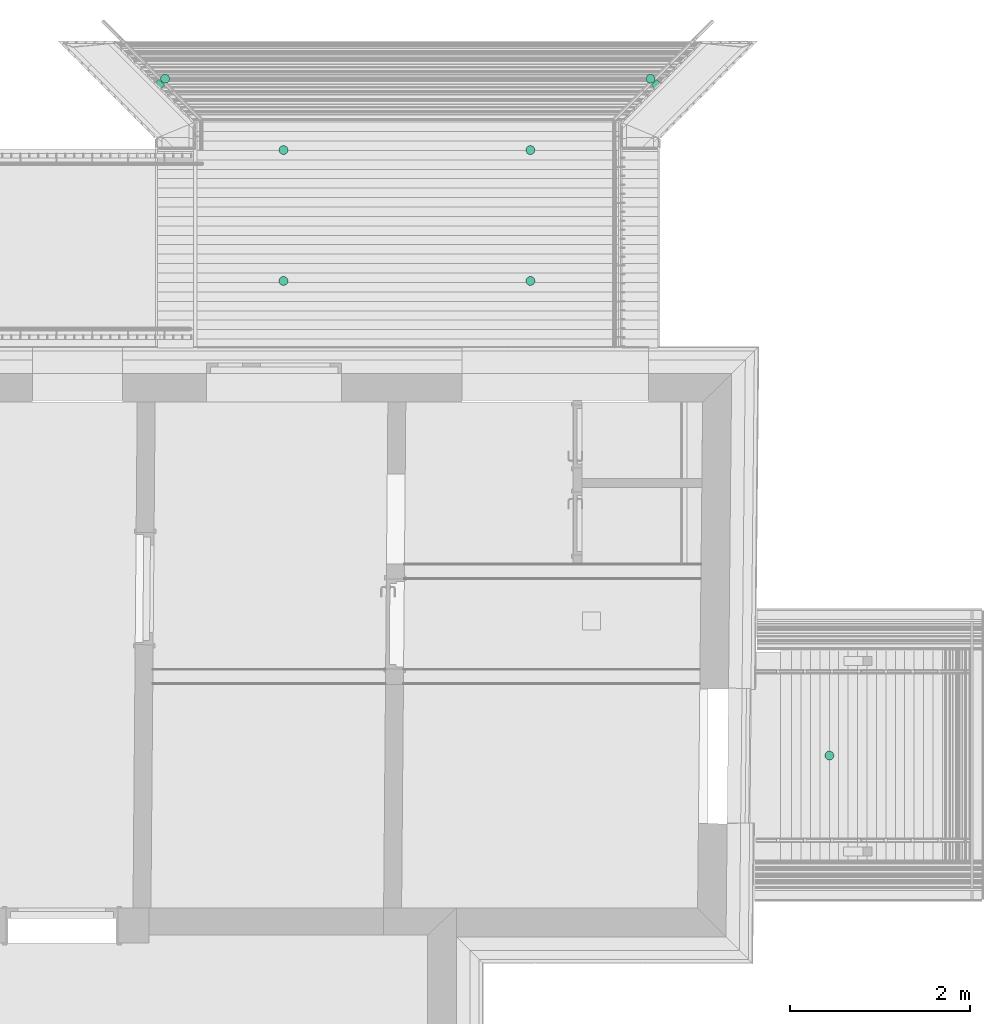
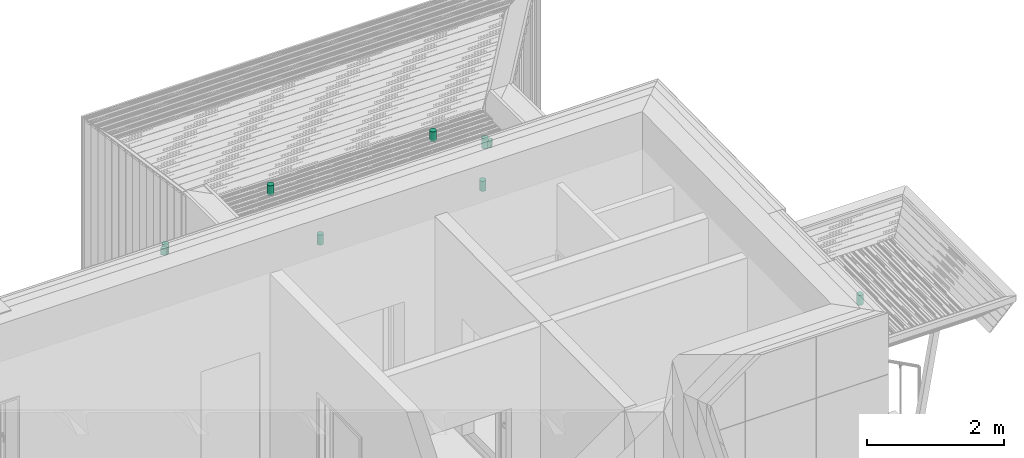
# One storey, part 184 of 418: 9 flow terminals.
"""IFC2X3 building model written with IfcOpenShell, lengths in millimetres."""

from ifc_helpers import new_model, entity, si_unit, converted_unit, derived_unit, money_unit, point, direction, frame, frame_2d, origin_with_axes, place, context, subcontext, project, spatial, polyline, circle_curve, parameter, trimmed, segment, composite_curve, outline, extrude, material, type_object, element, save


model = new_model("IFC2X3")

# Units and contexts
model_context = context("Model", 3, precision=0.01, world=origin_with_axes(), true_north=direction((0.0, 1.0)))
body_context = subcontext(model_context, "Body", "Model", "MODEL_VIEW")
ifc_project = project(units=[si_unit("LENGTHUNIT", "METRE", prefix="MILLI"), si_unit("AREAUNIT", "SQUARE_METRE"), si_unit("VOLUMEUNIT", "CUBIC_METRE"), converted_unit("PLANEANGLEUNIT", "DEGREE", entity("IfcPlaneAngleMeasure", 0.0174532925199), si_unit("PLANEANGLEUNIT", "RADIAN"), dimensions=[0, 0, 0, 0, 0, 0, 0]), si_unit("SOLIDANGLEUNIT", "STERADIAN"), money_unit("EUR"), converted_unit("TIMEUNIT", "Year", entity("IfcTimeMeasure", 31556926.0), si_unit("TIMEUNIT", "SECOND"), dimensions=[0, 0, 1, 0, 0, 0, 0]), si_unit("MASSUNIT", "GRAM", prefix="KILO"), si_unit("THERMODYNAMICTEMPERATUREUNIT", "DEGREE_CELSIUS"), si_unit("LUMINOUSINTENSITYUNIT", "LUMEN"), si_unit("ENERGYUNIT", "JOULE", prefix="MEGA"), derived_unit("THERMALCONDUCTANCEUNIT", [(si_unit("POWERUNIT", "WATT"), 1), (si_unit("LENGTHUNIT", "METRE"), -1), (si_unit("THERMODYNAMICTEMPERATUREUNIT", "KELVIN"), -1)]), derived_unit("SPECIFICHEATCAPACITYUNIT", [(si_unit("ENERGYUNIT", "JOULE"), 1), (si_unit("MASSUNIT", "GRAM", prefix="KILO"), -1), (si_unit("THERMODYNAMICTEMPERATUREUNIT", "KELVIN"), -1)]), derived_unit("MASSDENSITYUNIT", [(si_unit("MASSUNIT", "GRAM", prefix="KILO"), 1), (si_unit("VOLUMEUNIT", "CUBIC_METRE"), -1)])], contexts=[model_context])

# Site, building, storey
site_placement = place(None, origin_with_axes())
site = spatial("IfcSite", under=ifc_project, at=site_placement, Name="Paldiski mnt 245/1, Tallinn, Harjumaa", CompositionType="COMPLEX")
building_placement = place(site_placement, origin_with_axes())
building = spatial("IfcBuilding", under=site, at=building_placement, Name="RKAS Hoone üldnimetus (kasutust iseloomustav) -> IFC Project Manager -> SOLIBRI", CompositionType="ELEMENT")
storey_placement = place(building_placement, origin_with_axes())
storey = spatial("IfcBuildingStorey", under=building, at=storey_placement, Name="Esimene korrus", CompositionType="ELEMENT", Elevation=0.0)

# Flow terminals
ifc_material = material(Name="RAL7016")
light_fixture_type_1 = type_object("IfcLightFixtureType", Name="RAL7016 180", PredefinedType="NOTDEFINED")
for number, where, z_axis, x_axis in (
    (1, (-51944.1209096, 37119.8287546, 2730.72852546), (0.0, 0.0, 1.0), (1.0, 0.0, 0.0)),
    (2, (-49196.4994812, 37119.8287546, 2730.72852546), (0.0, 0.0, 1.0), (1.0, 0.0, 0.0)),
    (3, (-51944.1209096, 38576.3006419, 2730.72852546), (0.0, 0.0, 1.0), (1.0, 0.0, 0.0)),
    (4, (-49196.4994812, 38576.3006419, 2730.72852546), (0.0, 0.0, 1.0), (1.0, 0.0, 0.0)),
    (5, (-45868.4064551, 31837.2365601, 2730.72852546), (0.0, 0.0, 1.0), (1.0, 0.0, 0.0)),
):
    element("IfcFlowTerminal", number, at=place(storey_placement, frame(where, z_axis=z_axis, x_axis=x_axis)), inside=storey, type_object=light_fixture_type_1, material=ifc_material, Name="Välisvalgusti", ObjectType="Light Fixture", context=body_context, shape_type="SweptSolid", body=[
        extrude(outline(composite_curve([segment(trimmed(circle_curve(frame_2d((-50.0, 0.0), x_axis=(1.0, 0.0)), 50.0), [point((0.0, 0.0)), parameter(0.0)], [point((-100.0, 0.0)), parameter(180.0)], True, "CARTESIAN"), True, "CONTINUOUS"), segment(trimmed(circle_curve(frame_2d((-50.0, 0.0), x_axis=(-1.0, 0.0)), 50.0), [point((-100.0, 0.0)), parameter(0.0)], [point((0.0, 0.0)), parameter(180.0)], True, "CARTESIAN"), True, "CONTINUOUS")], self_intersect=False)), frame((0.0, 0.0, -180.0), z_axis=(0.0, 0.0, 1.0), x_axis=(1.0, 0.0, 0.0)), (0.0, 0.0, 1.0), 180.0),
    ])
flow_terminal_1_placement = place(storey_placement, frame((-53348.1977993, 39334.9129869, 1654.07003326), z_axis=(0.0, 0.0, 1.0), x_axis=(1.0, 0.0, 0.0)))
element("IfcFlowTerminal", 6, at=flow_terminal_1_placement, inside=storey, type_object=light_fixture_type_1, material=ifc_material, Name="Välisvalgusti", ObjectType="Light Fixture", context=body_context, shape_type="SweptSolid", body=[
    extrude(outline(composite_curve([segment(trimmed(circle_curve(frame_2d((35.401037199, 35.3095817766), x_axis=(-0.708020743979, -0.706191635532)), 50.0), [point((0.0, 0.0)), parameter(0.0)], [point((70.8020743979, 70.6191635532)), parameter(180.0)], True, "CARTESIAN"), True, "CONTINUOUS"), segment(trimmed(circle_curve(frame_2d((35.401037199, 35.3095817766), x_axis=(0.708020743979, 0.706191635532)), 50.0), [point((70.8020743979, 70.6191635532)), parameter(0.0)], [point((0.0, 0.0)), parameter(180.0)], True, "CARTESIAN"), True, "CONTINUOUS")], self_intersect=False)), frame((0.0, 0.0, -180.0), z_axis=(0.0, 0.0, 1.0), x_axis=(1.0, 0.0, 0.0)), (0.0, 0.0, 1.0), 180.0),
])
flow_terminal_2_placement = place(storey_placement, frame((-47873.6793306, 39334.9129946, 1654.07003326), z_axis=(0.0, 0.0, 1.0), x_axis=(1.0, 0.0, 0.0)))
element("IfcFlowTerminal", 7, at=flow_terminal_2_placement, inside=storey, type_object=light_fixture_type_1, material=ifc_material, Name="Välisvalgusti", ObjectType="Light Fixture", context=body_context, shape_type="SweptSolid", body=[
    extrude(outline(composite_curve([segment(trimmed(circle_curve(frame_2d((-35.4010410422, 35.3095779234), x_axis=(0.708020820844, -0.706191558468)), 50.0), [point((0.0, 0.0)), parameter(0.0)], [point((-70.8020820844, 70.6191558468)), parameter(180.0)], True, "CARTESIAN"), True, "CONTINUOUS"), segment(trimmed(circle_curve(frame_2d((-35.4010410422, 35.3095779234), x_axis=(-0.708020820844, 0.706191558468)), 50.0), [point((-70.8020820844, 70.6191558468)), parameter(0.0)], [point((0.0, 0.0)), parameter(180.0)], True, "CARTESIAN"), True, "CONTINUOUS")], self_intersect=False)), frame((0.0, 0.0, -180.0), z_axis=(0.0, 0.0, 1.0), x_axis=(1.0, 0.0, 0.0)), (0.0, 0.0, 1.0), 180.0),
])
light_fixture_type_2 = type_object("IfcLightFixtureType", Name="RAL7016 120", PredefinedType="NOTDEFINED")
flow_terminal_3_placement = place(storey_placement, frame((-53318.543238, 39300.9334785, 1624.07003326), z_axis=(0.0, 0.0, 1.0), x_axis=(1.0, 0.0, 0.0)))
element("IfcFlowTerminal", 8, at=flow_terminal_3_placement, inside=storey, type_object=light_fixture_type_2, material=ifc_material, Name="Välisvalgusti", ObjectType="Light Fixture", context=body_context, shape_type="SweptSolid", body=[
    extrude(outline(polyline([(0.0, 0.0), (-63.5572471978, 63.7218669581), (-98.9582843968, 28.4122851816), (-35.401037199, -35.3095817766), (0.0, 0.0)])), frame((0.0, 0.0, -120.0), z_axis=(0.0, 0.0, 1.0), x_axis=(1.0, 0.0, 0.0)), (0.0, 0.0, 1.0), 120.0),
])
flow_terminal_4_placement = place(storey_placement, frame((-47839.776648, 39364.6553568, 1624.07003326), z_axis=(0.0, 0.0, 1.0), x_axis=(1.0, 0.0, 0.0)))
element("IfcFlowTerminal", 9, at=flow_terminal_4_placement, inside=storey, type_object=light_fixture_type_2, material=ifc_material, Name="Välisvalgusti", ObjectType="Light Fixture", context=body_context, shape_type="SweptSolid", body=[
    extrude(outline(polyline([(0.0, 0.0), (-63.5572402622, -63.7218738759), (-28.15619922, -99.0314517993), (35.4010410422, -35.3095779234), (0.0, 0.0)])), frame((0.0, 0.0, -120.0), z_axis=(0.0, 0.0, 1.0), x_axis=(1.0, 0.0, 0.0)), (0.0, 0.0, 1.0), 120.0),
])

save(model, "model.ifc")
